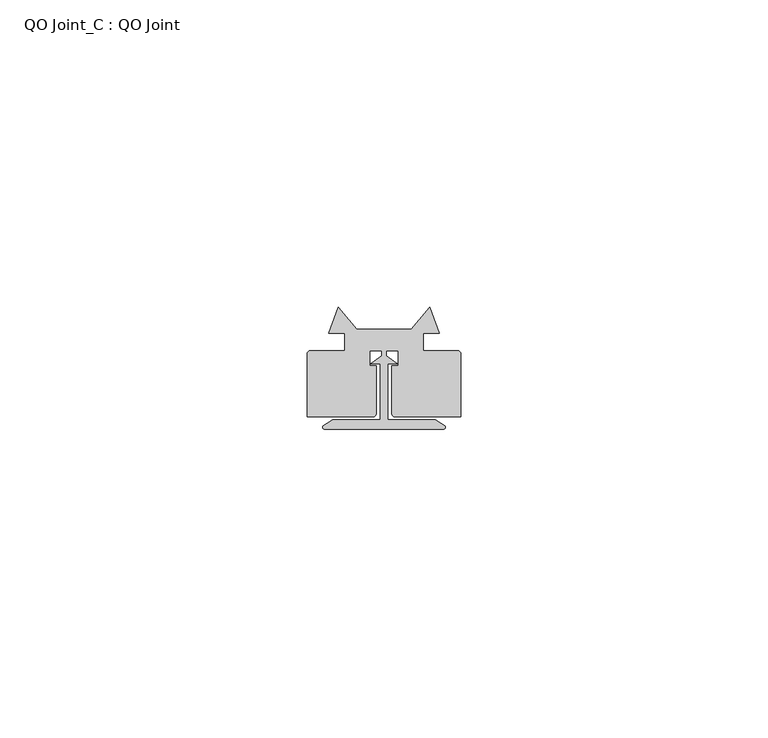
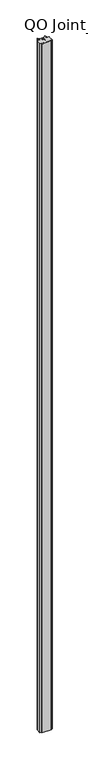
"""IFC4 building model written with IfcOpenShell, lengths in millimetres: column geometry, QO Joint_C : QO Joint."""

from ifc_helpers import new_model, si_unit, point, frame, frame_2d, origin, place, context, project, spatial, polyline, circle_curve, trimmed, segment, composite_curve, outline, extrude, source, transform, mapped, element, save


def qo_joint_c_qo_joint_b85e453c(model_context):
    return source(origin(), model_context, "Body", "SweptSolid", [
        extrude(outline(composite_curve([segment(polyline([(-0.65, 34.6160805), (-2.1650257, 34.6160805), (-0.3521968, 35.9759407), (-0.3521968, 36.7759407), (-2.3537221, 36.7759407), (-2.3537221, 34.317153), (-1.2854895, 34.317153), (-1.2854895, 26.5392087)]), True, "CONTINUOUS"), segment(trimmed(circle_curve(frame_2d((-1.7848662, 26.5150144)), 0.4999625), [point((-1.2854895, 26.5392087))], [point((-1.7848662, 26.0150519))], False, "CARTESIAN"), True, "CONTINUOUS"), segment(polyline([(-1.7848662, 26.0150519), (-12.4986723, 26.0150519), (-12.4986723, 36.190378)]), True, "CONTINUOUS"), segment(trimmed(circle_curve(frame_2d((-11.8986723, 36.190378)), 0.6), [point((-12.4986723, 36.190378))], [point((-11.8986723, 36.790378))], False, "CARTESIAN"), True, "CONTINUOUS"), segment(polyline([(-11.8986723, 36.790378), (-6.3601486, 36.790378), (-6.3601486, 39.6058207), (-8.9587496, 39.6058207), (-7.4200002, 43.8493822), (-4.3967779, 40.3004498), (4.3967779, 40.3004498), (7.4200002, 43.8493822), (8.9587496, 39.6058207), (6.3601486, 39.6058207), (6.3601486, 36.790378), (11.8986723, 36.790378)]), True, "CONTINUOUS"), segment(trimmed(circle_curve(frame_2d((11.8986723, 36.190378)), 0.6), [point((11.8986723, 36.790378))], [point((12.4986723, 36.190378))], False, "CARTESIAN"), True, "CONTINUOUS"), segment(polyline([(12.4986723, 36.190378), (12.4986723, 26.0150519), (1.7848662, 26.0150519)]), True, "CONTINUOUS"), segment(trimmed(circle_curve(frame_2d((1.7848662, 26.5150144)), 0.4999625), [point((1.7848662, 26.0150519))], [point((1.2854895, 26.5392087))], False, "CARTESIAN"), True, "CONTINUOUS"), segment(polyline([(1.2854895, 26.5392087), (1.2854895, 34.317153), (2.3537221, 34.317153), (2.3537221, 36.7759407), (0.3521968, 36.7759407), (0.3521968, 35.9759407), (2.1650257, 34.6160805), (0.65, 34.6160805), (0.65, 25.5027713), (8.3181137, 25.5027713), (9.8500891, 24.5783623)]), True, "CONTINUOUS"), segment(trimmed(circle_curve(frame_2d((9.6899304, 24.3129396)), 0.31), [point((9.8500891, 24.5783623))], [point((9.6899304, 24.0029396))], False, "CARTESIAN"), True, "CONTINUOUS"), segment(polyline([(9.6899304, 24.0029396), (-9.6900925, 24.0029396)]), True, "CONTINUOUS"), segment(trimmed(circle_curve(frame_2d((-9.6900925, 24.3129396)), 0.31), [point((-9.6900925, 24.0029396))], [point((-9.8502511, 24.5783623))], False, "CARTESIAN"), True, "CONTINUOUS"), segment(polyline([(-9.8502511, 24.5783623), (-8.3182758, 25.5027713), (-0.65, 25.5027713), (-0.65, 34.6160805)]), True, "CONTINUOUS")], self_intersect=False)), frame((0.0, 0.0, 4650.0), z_axis=(0.0, 0.0, 1.0), x_axis=(1.0, 0.0, 0.0)), (0.0, 0.0, 1.0), 1500.0),
    ])


if __name__ == "__main__":
    model = new_model("IFC4")
    model_context = context("Model", 3, world=origin())
    ifc_project = project(units=[si_unit("LENGTHUNIT", "METRE", prefix="MILLI")], contexts=[model_context])
    site = spatial("IfcSite", under=ifc_project)
    building = spatial("IfcBuilding", under=site)
    placement = place(None, origin())
    qo_joint_c_qo_joint_shape = qo_joint_c_qo_joint_b85e453c(model_context)
    element("IfcColumn", 1, ObjectType="QO Joint_C : QO Joint", at=placement, inside=building, context=model_context, shape_type="MappedRepresentation", body=[
        mapped(qo_joint_c_qo_joint_shape, transform((0.0, 0.0, 0.0), x_axis=(1.0, 0.0, 0.0), y_axis=(0.0, 1.0, 0.0), z_axis=(0.0, 0.0, 1.0))),
    ])
    save(model, "model.ifc")
